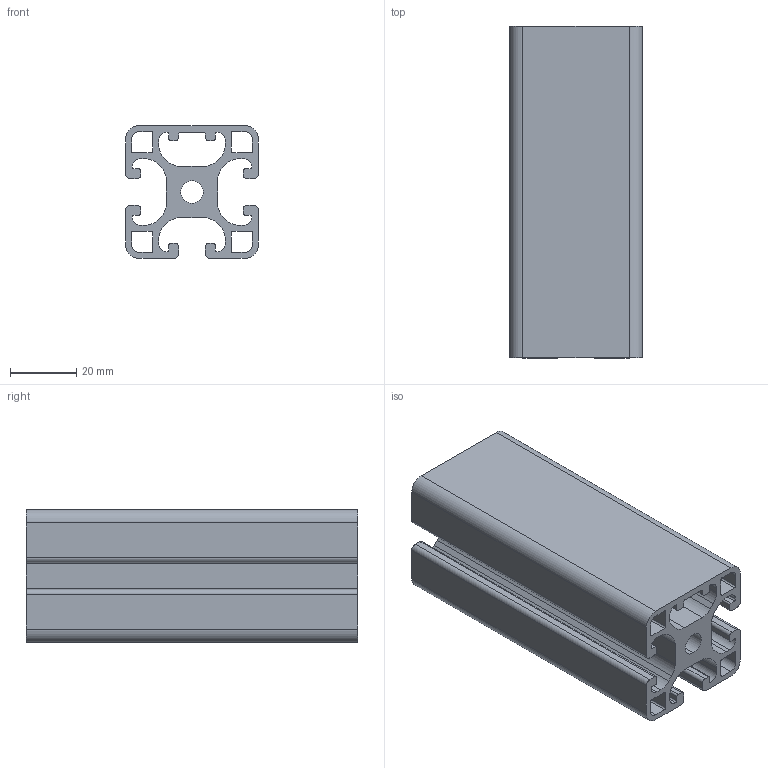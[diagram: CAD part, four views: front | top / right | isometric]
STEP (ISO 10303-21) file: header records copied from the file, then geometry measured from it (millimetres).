
FILE_DESCRIPTION (( 'STEP AP203' ), '1' );
FILE_NAME ('0108P4040-1NL.STEP', '2024-02-29T07:19:30', ( 'Windows-Benutzer' ), ( '' ), 'SwSTEP 2.0', 'SolidWorks 2023', '' );
FILE_SCHEMA (( 'CONFIG_CONTROL_DESIGN' ));
Length unit declared in the file: millimetre
Products named in the file (1): 0108P4040-1NL
Bounding box: 40 x 100 x 40 mm (x, y, z)
Volume: 66796.1 mm3; surface area: 48708.1 mm2
Topology: 1 solids, 1 shells, 148 faces, 438 edges, 292 vertices
Faces by surface type: cylinder 78, plane 70
Entity records: 5099 total; most frequent: DIRECTION 892, CARTESIAN_POINT 879, ORIENTED_EDGE 876, EDGE_CURVE 438, AXIS2_PLACEMENT_3D 305, VERTEX_POINT 292, VECTOR 282, LINE 282
